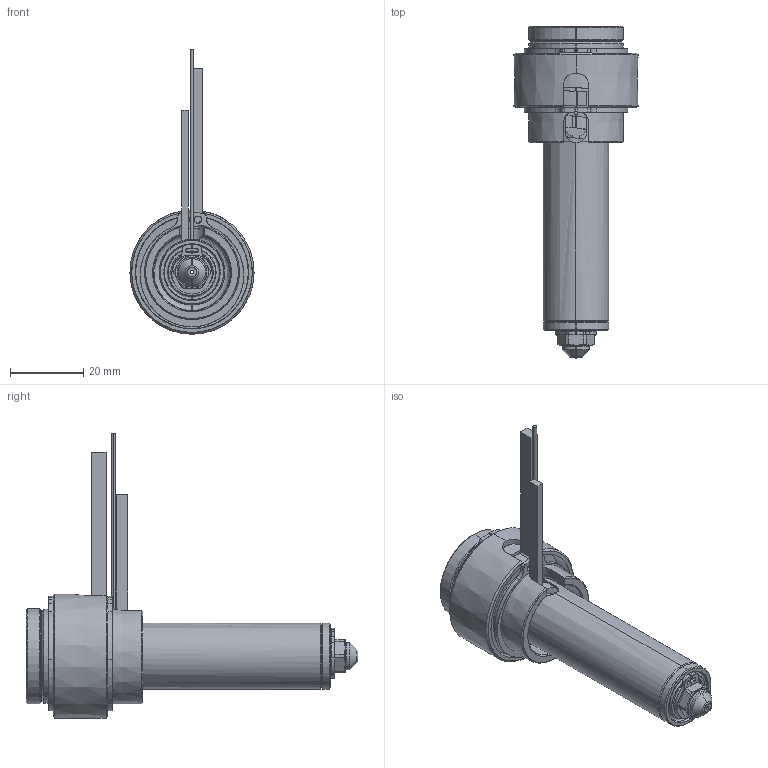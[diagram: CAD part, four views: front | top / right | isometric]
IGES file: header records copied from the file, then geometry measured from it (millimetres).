
Start section: SolidWorks IGES file using analytic representation for surfaces
Global section: file name: C:\Documents and Settings\ws-20\Desktop\TEM\UGER2502-S-A-0 [Øb-0.90 ØC-5.0].IGS; native system: SolidWorks 2012; preprocessor: SolidWorks 2012; author: ws-20; date: 120405.105108; units: millimetre
Bounding box: 34 x 90.9 x 77.9 mm (x, y, z)
Surface area: 24620.4 mm2 (no closed solid volume)
Topology: 0 solids, 0 shells, 210 faces, 2841 edges, 2841 vertices
Faces by surface type: revolution 134, bspline 76
